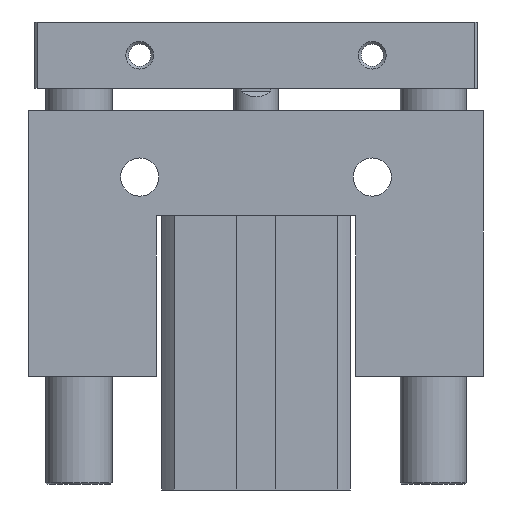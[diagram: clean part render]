
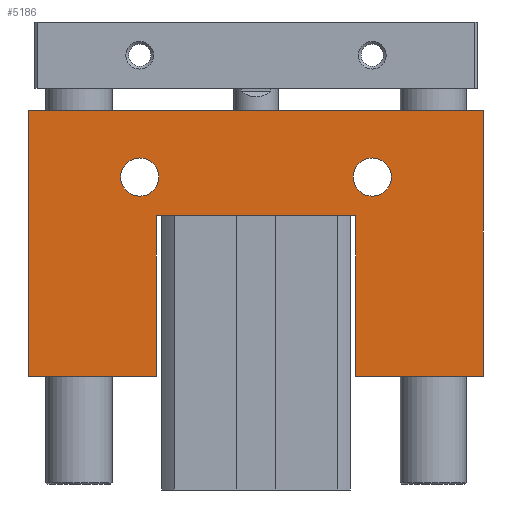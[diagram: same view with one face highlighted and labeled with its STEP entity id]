
A CAD part, front view. The second image highlights one B-rep face of the part: STEP entity #5186.
In plain terms, the highlighted planar face has unit normal (0, -1, 0).
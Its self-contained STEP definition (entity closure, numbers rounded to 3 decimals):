
#2112=CARTESIAN_POINT('',(-17.76,-16.817,20.5));
#2113=VERTEX_POINT('',#2112);
#2114=CARTESIAN_POINT('',(-40.76,-16.817,20.5));
#2115=VERTEX_POINT('',#2114);
#2116=CARTESIAN_POINT('',(-17.76,-16.817,20.5));
#2117=DIRECTION('',(-1.0,0.0,0.0));
#2118=VECTOR('',#2117,23.);
#2119=LINE('',#2116,#2118);
#2120=EDGE_CURVE('',#2113,#2115,#2119,.T.);
#2203=CARTESIAN_POINT('',(41.24,-16.817,20.5));
#2204=VERTEX_POINT('',#2203);
#2205=CARTESIAN_POINT('',(18.24,-16.817,20.5));
#2206=VERTEX_POINT('',#2205);
#2207=CARTESIAN_POINT('',(41.24,-16.817,20.5));
#2208=DIRECTION('',(-1.0,0.0,0.0));
#2209=VECTOR('',#2208,23.);
#2210=LINE('',#2207,#2209);
#2211=EDGE_CURVE('',#2204,#2206,#2210,.T.);
#2266=CARTESIAN_POINT('',(-40.76,-16.817,68.5));
#2267=VERTEX_POINT('',#2266);
#2268=CARTESIAN_POINT('',(41.24,-16.817,68.5));
#2269=VERTEX_POINT('',#2268);
#2270=CARTESIAN_POINT('',(-40.76,-16.817,68.5));
#2271=DIRECTION('',(1.0,0.0,0.0));
#2272=VECTOR('',#2271,82.);
#2273=LINE('',#2270,#2272);
#2274=EDGE_CURVE('',#2267,#2269,#2273,.T.);
#4418=CARTESIAN_POINT('',(17.79,-16.817,56.5));
#4419=VERTEX_POINT('',#4418);
#4420=CARTESIAN_POINT('',(21.24,-16.817,56.5));
#4421=DIRECTION('',(0.0,1.0,0.0));
#4422=DIRECTION('',(1.0,0.0,0.0));
#4423=AXIS2_PLACEMENT_3D('',#4420,#4421,#4422);
#4424=CIRCLE('',#4423,3.45);
#4425=EDGE_CURVE('',#4419,#4419,#4424,.T.);
#4528=CARTESIAN_POINT('',(-24.21,-16.817,56.5));
#4529=VERTEX_POINT('',#4528);
#4530=CARTESIAN_POINT('',(-20.76,-16.817,56.5));
#4531=DIRECTION('',(0.0,1.0,0.0));
#4532=DIRECTION('',(1.0,0.0,0.0));
#4533=AXIS2_PLACEMENT_3D('',#4530,#4531,#4532);
#4534=CIRCLE('',#4533,3.45);
#4535=EDGE_CURVE('',#4529,#4529,#4534,.T.);
#4588=CARTESIAN_POINT('',(18.24,-16.817,49.5));
#4589=VERTEX_POINT('',#4588);
#4590=CARTESIAN_POINT('',(-17.76,-16.817,49.5));
#4591=VERTEX_POINT('',#4590);
#4592=CARTESIAN_POINT('',(18.24,-16.817,49.5));
#4593=DIRECTION('',(-1.0,0.0,0.0));
#4594=VECTOR('',#4593,36.0);
#4595=LINE('',#4592,#4594);
#4596=EDGE_CURVE('',#4589,#4591,#4595,.T.);
#5078=CARTESIAN_POINT('',(41.24,-16.817,68.5));
#5079=DIRECTION('',(0.0,0.0,-1.0));
#5080=VECTOR('',#5079,48.);
#5081=LINE('',#5078,#5080);
#5082=EDGE_CURVE('',#2269,#2204,#5081,.T.);
#5107=CARTESIAN_POINT('',(18.24,-16.817,20.5));
#5108=DIRECTION('',(0.0,0.0,1.0));
#5109=VECTOR('',#5108,29.);
#5110=LINE('',#5107,#5109);
#5111=EDGE_CURVE('',#2206,#4589,#5110,.T.);
#5124=CARTESIAN_POINT('',(-17.76,-16.817,49.5));
#5125=DIRECTION('',(0.0,0.0,-1.0));
#5126=VECTOR('',#5125,29.);
#5127=LINE('',#5124,#5126);
#5128=EDGE_CURVE('',#4591,#2113,#5127,.T.);
#5141=CARTESIAN_POINT('',(-40.76,-16.817,20.5));
#5142=DIRECTION('',(0.0,0.0,1.0));
#5143=VECTOR('',#5142,48.);
#5144=LINE('',#5141,#5143);
#5145=EDGE_CURVE('',#2115,#2267,#5144,.T.);
#5165=CARTESIAN_POINT('',(0.24,-16.817,46.05));
#5166=DIRECTION('',(0.0,1.0,0.0));
#5167=DIRECTION('',(0.0,0.0,1.0));
#5168=AXIS2_PLACEMENT_3D('',#5165,#5166,#5167);
#5169=PLANE('',#5168);
#5170=ORIENTED_EDGE('',*,*,#5082,.F.);
#5171=ORIENTED_EDGE('',*,*,#2274,.F.);
#5172=ORIENTED_EDGE('',*,*,#5145,.F.);
#5173=ORIENTED_EDGE('',*,*,#2120,.F.);
#5174=ORIENTED_EDGE('',*,*,#5128,.F.);
#5175=ORIENTED_EDGE('',*,*,#4596,.F.);
#5176=ORIENTED_EDGE('',*,*,#5111,.F.);
#5177=ORIENTED_EDGE('',*,*,#2211,.F.);
#5178=EDGE_LOOP('',(#5170,#5171,#5172,#5173,#5174,#5175,#5176,#5177));
#5179=FACE_OUTER_BOUND('',#5178,.T.);
#5180=ORIENTED_EDGE('',*,*,#4425,.T.);
#5181=EDGE_LOOP('',(#5180));
#5182=FACE_BOUND('',#5181,.T.);
#5183=ORIENTED_EDGE('',*,*,#4535,.T.);
#5184=EDGE_LOOP('',(#5183));
#5185=FACE_BOUND('',#5184,.T.);
#5186=ADVANCED_FACE('',(#5179,#5182,#5185),#5169,.F.);
